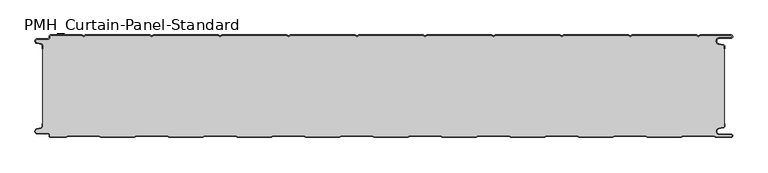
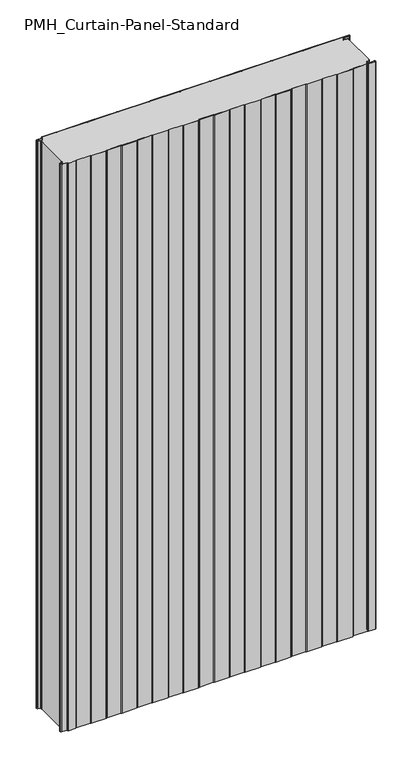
"""IFC4 building model written with IfcOpenShell, lengths in millimetres: plate geometry, PMH_Curtain-Panel-Standard : ACH_PMH_Acoustic-Sectioning-Panel_150M."""

from ifc_helpers import new_model, si_unit, point, frame_2d, origin, origin_with_axes, place, context, project, spatial, polyline, circle_curve, trimmed, segment, composite_curve, outline, extrude, source, transform, mapped, element, save


def pmh_curtain_panel_standard_5d81f6bc(model_context):
    return source(origin(), model_context, "Body", "SweptSolid", [
        extrude(outline(composite_curve([segment(trimmed(circle_curve(frame_2d((-502.0, -15.878557)), 2.0), [point((-500.0, -15.878557))], [point((-501.5500978, -13.9298169))], True, "CARTESIAN"), True, "CONTINUOUS"), segment(polyline([(-501.5500978, -13.9298169), (-507.7098239, -12.507732)]), True, "CONTINUOUS"), segment(trimmed(circle_curve(frame_2d((-506.9, -9.0)), 3.6), [point((-507.7098239, -12.507732))], [point((-506.9, -5.4))], False, "CARTESIAN"), True, "CONTINUOUS"), segment(polyline([(-506.9, -5.4), (-491.4, -5.4)]), True, "CONTINUOUS"), segment(trimmed(circle_curve(frame_2d((-491.4, -3.4)), 2.0), [point((-491.4, -5.4))], [point((-489.4, -3.4))], True, "CARTESIAN"), True, "CONTINUOUS"), segment(polyline([(-489.4, -3.4), (-489.4, -2.0)]), True, "CONTINUOUS"), segment(trimmed(circle_curve(frame_2d((-487.4, -2.0)), 2.0), [point((-489.4, -2.0))], [point((-487.4, 0.0))], False, "CARTESIAN"), True, "CONTINUOUS"), segment(polyline([(-487.4, 0.0), (-442.0999995, 0.0), (-439.4, -1.5588455), (-436.7000005, 0.0), (-342.0999995, 0.0), (-339.4, -1.5588455), (-336.7000005, 0.0), (-242.0999995, 0.0), (-239.4, -1.5588455), (-236.7000005, 0.0), (-142.0999995, 0.0), (-139.4, -1.5588455), (-136.7000005, 0.0), (-42.0999995, 0.0), (-39.4, -1.5588455), (-36.7000005, 0.0), (57.9000005, 0.0), (60.6, -1.5588455), (63.2999995, 0.0), (157.9000005, 0.0), (160.6, -1.5588455), (163.2999995, 0.0), (257.9000005, 0.0), (260.6, -1.5588455), (263.2999995, 0.0), (357.9000005, 0.0), (360.6, -1.5588455), (363.2999995, 0.0), (457.9000005, 0.0), (460.6, -1.5588455), (463.2999995, 0.0), (508.1, 0.0)]), True, "CONTINUOUS"), segment(trimmed(circle_curve(frame_2d((508.1, -2.5)), 2.5), [point((508.1, 0.0))], [point((508.1, -5.0))], False, "CARTESIAN"), True, "CONTINUOUS"), segment(polyline([(508.1, -5.0), (491.1, -5.0)]), True, "CONTINUOUS"), segment(trimmed(circle_curve(frame_2d((491.1, -9.0)), 4.0), [point((491.1, -5.0))], [point((490.405407, -12.939231))], True, "CARTESIAN"), True, "CONTINUOUS"), segment(polyline([(490.405407, -12.939231), (496.8514855, -14.0758491)]), True, "CONTINUOUS"), segment(trimmed(circle_curve(frame_2d((496.4, -16.6363492)), 2.6), [point((496.8514855, -14.0758491))], [point((499.0, -16.6363492))], False, "CARTESIAN"), True, "CONTINUOUS"), segment(polyline([(499.0, -16.6363492), (499.0, -20.0), (498.2, -20.0), (498.2, -16.6363492)]), True, "CONTINUOUS"), segment(trimmed(circle_curve(frame_2d((496.4, -16.6363492)), 1.8), [point((498.2, -16.6363492))], [point((496.7125669, -14.8636953))], True, "CARTESIAN"), True, "CONTINUOUS"), segment(polyline([(496.7125669, -14.8636953), (490.2664884, -13.7270772)]), True, "CONTINUOUS"), segment(trimmed(circle_curve(frame_2d((491.1, -9.0)), 4.8), [point((490.2664884, -13.7270772))], [point((491.1, -4.2))], False, "CARTESIAN"), True, "CONTINUOUS"), segment(polyline([(491.1, -4.2), (508.1, -4.2)]), True, "CONTINUOUS"), segment(trimmed(circle_curve(frame_2d((508.1, -2.5)), 1.7), [point((508.1, -4.2))], [point((508.1, -0.8))], True, "CARTESIAN"), True, "CONTINUOUS"), segment(polyline([(508.1, -0.8), (463.5143588, -0.8), (460.6, -2.482606), (457.6856412, -0.8), (363.5143588, -0.8), (360.6, -2.482606), (357.6856412, -0.8), (263.5143588, -0.8), (260.6, -2.482606), (257.6856412, -0.8), (163.5143588, -0.8), (160.6, -2.482606), (157.6856412, -0.8), (63.5143588, -0.8), (60.6, -2.482606), (57.6856412, -0.8), (-36.4856412, -0.8), (-39.4, -2.482606), (-42.3143588, -0.8), (-136.4856412, -0.8), (-139.4, -2.482606), (-142.3143588, -0.8), (-236.4856412, -0.8), (-239.4, -2.482606), (-242.3143588, -0.8), (-336.4856412, -0.8), (-339.4, -2.482606), (-342.3143588, -0.8), (-436.4856412, -0.8), (-439.4, -2.482606), (-442.3143588, -0.8), (-487.4, -0.8)]), True, "CONTINUOUS"), segment(trimmed(circle_curve(frame_2d((-487.4, -2.0)), 1.2), [point((-487.4, -0.8))], [point((-488.6, -2.0))], True, "CARTESIAN"), True, "CONTINUOUS"), segment(polyline([(-488.6, -2.0), (-488.6, -3.4)]), True, "CONTINUOUS"), segment(trimmed(circle_curve(frame_2d((-491.4, -3.4)), 2.8), [point((-488.6, -3.4))], [point((-491.4, -6.2))], False, "CARTESIAN"), True, "CONTINUOUS"), segment(polyline([(-491.4, -6.2), (-506.9, -6.2)]), True, "CONTINUOUS"), segment(trimmed(circle_curve(frame_2d((-506.9, -9.0)), 2.8), [point((-506.9, -6.2))], [point((-507.529863, -11.7282362))], True, "CARTESIAN"), True, "CONTINUOUS"), segment(polyline([(-507.529863, -11.7282362), (-501.370137, -13.150321)]), True, "CONTINUOUS"), segment(trimmed(circle_curve(frame_2d((-502.0, -15.878557)), 2.8), [point((-501.370137, -13.150321))], [point((-499.2, -15.878557))], False, "CARTESIAN"), True, "CONTINUOUS"), segment(polyline([(-499.2, -15.878557), (-499.2, -20.0), (-500.0, -20.0), (-500.0, -15.878557)]), True, "CONTINUOUS")], self_intersect=False)), origin_with_axes(), (0.0, 0.0, 1.0), 1945.7507136),
        extrude(outline(composite_curve([segment(polyline([(-499.2, -134.121443), (-499.2, -15.8785573)]), True, "CONTINUOUS"), segment(trimmed(circle_curve(frame_2d((-502.0, -15.8785573)), 2.8), [point((-499.2, -15.8785573))], [point((-501.370137, -13.1503212))], True, "CARTESIAN"), True, "CONTINUOUS"), segment(polyline([(-501.370137, -13.1503212), (-507.5298631, -11.7282362)]), True, "CONTINUOUS"), segment(trimmed(circle_curve(frame_2d((-506.9, -9.0)), 2.8), [point((-507.5298631, -11.7282362))], [point((-506.9, -6.2))], False, "CARTESIAN"), True, "CONTINUOUS"), segment(polyline([(-506.9, -6.2), (-491.4000001, -6.2)]), True, "CONTINUOUS"), segment(trimmed(circle_curve(frame_2d((-491.4000001, -3.4)), 2.8), [point((-491.4000001, -6.2))], [point((-488.6000001, -3.4))], True, "CARTESIAN"), True, "CONTINUOUS"), segment(polyline([(-488.6000001, -3.4), (-488.6000001, -2.0)]), True, "CONTINUOUS"), segment(trimmed(circle_curve(frame_2d((-487.4000001, -2.0)), 1.2), [point((-488.6000001, -2.0))], [point((-487.4000001, -0.8))], False, "CARTESIAN"), True, "CONTINUOUS"), segment(polyline([(-487.4000001, -0.8), (-442.3143589, -0.8), (-439.4000001, -2.482606), (-436.4856412, -0.8), (-342.3143589, -0.8), (-339.4000001, -2.482606), (-336.4856412, -0.8), (-242.3143589, -0.8), (-239.4000001, -2.482606), (-236.4856412, -0.8), (-142.3143589, -0.8), (-139.4000001, -2.482606), (-136.4856412, -0.8), (-42.3143589, -0.8), (-39.4000001, -2.482606), (-36.4856412, -0.8), (57.6856411, -0.8), (60.5999999, -2.482606), (63.5143588, -0.8), (157.6856411, -0.8), (160.5999999, -2.482606), (163.5143588, -0.8), (257.6856411, -0.8), (260.5999999, -2.482606), (263.5143588, -0.8), (357.6856411, -0.8), (360.5999999, -2.482606), (363.5143588, -0.8), (457.6856411, -0.8), (460.5999999, -2.482606), (463.5143587, -0.8), (508.1, -0.8)]), True, "CONTINUOUS"), segment(trimmed(circle_curve(frame_2d((508.1, -2.5)), 1.7), [point((508.1, -0.8))], [point((508.1, -4.2))], False, "CARTESIAN"), True, "CONTINUOUS"), segment(polyline([(508.1, -4.2), (491.1, -4.2)]), True, "CONTINUOUS"), segment(trimmed(circle_curve(frame_2d((491.1, -9.0)), 4.8), [point((491.1, -4.2))], [point((490.2664883, -13.7270771))], True, "CARTESIAN"), True, "CONTINUOUS"), segment(polyline([(490.2664883, -13.7270771), (496.7125668, -14.8636953)]), True, "CONTINUOUS"), segment(trimmed(circle_curve(frame_2d((496.4, -16.6363492)), 1.8), [point((496.7125668, -14.8636953))], [point((498.2, -16.6363492))], False, "CARTESIAN"), True, "CONTINUOUS"), segment(polyline([(498.2, -16.6363492), (498.2, -133.363652)]), True, "CONTINUOUS"), segment(trimmed(circle_curve(frame_2d((496.4, -133.363652)), 1.8), [point((498.2, -133.363652))], [point((496.7125666, -135.1363059))], False, "CARTESIAN"), True, "CONTINUOUS"), segment(polyline([(496.7125666, -135.1363059), (490.266489, -136.272923)]), True, "CONTINUOUS"), segment(trimmed(circle_curve(frame_2d((491.1, -141.0000002)), 4.7999999), [point((490.266489, -136.272923))], [point((491.1, -145.8000001))], True, "CARTESIAN"), True, "CONTINUOUS"), segment(polyline([(491.1, -145.8000001), (508.1, -145.8000001)]), True, "CONTINUOUS"), segment(trimmed(circle_curve(frame_2d((508.1, -147.5)), 1.7), [point((508.1, -145.8000001))], [point((508.1, -149.2))], False, "CARTESIAN"), True, "CONTINUOUS"), segment(polyline([(508.1, -149.2), (485.8105122, -149.2), (483.2124346, -147.7), (437.9837184, -147.7), (435.3856408, -149.2), (385.8105122, -149.2), (383.2124346, -147.7), (337.9837184, -147.7), (335.3856408, -149.2), (285.8105122, -149.2), (283.2124346, -147.7), (237.9837184, -147.7), (235.3856408, -149.2), (185.8105122, -149.2), (183.2124346, -147.7), (137.9837184, -147.7), (135.3856408, -149.2), (85.8105122, -149.2), (83.2124346, -147.7), (37.9837184, -147.7), (35.3856408, -149.2), (-14.1894878, -149.2), (-16.7875654, -147.7), (-62.0162816, -147.7), (-64.6143592, -149.2), (-114.1894878, -149.2), (-116.7875654, -147.7), (-162.0162816, -147.7), (-164.6143592, -149.2), (-214.1894878, -149.2), (-216.7875654, -147.7), (-262.0162816, -147.7), (-264.6143592, -149.2), (-314.1894878, -149.2), (-316.7875654, -147.7), (-362.0162816, -147.7), (-364.6143592, -149.2), (-414.1894878, -149.2), (-416.7875654, -147.7), (-462.0162816, -147.7), (-464.6143592, -149.2), (-487.4, -149.2)]), True, "CONTINUOUS"), segment(trimmed(circle_curve(frame_2d((-487.4, -148.0)), 1.2), [point((-487.4, -149.2))], [point((-488.6, -148.0))], False, "CARTESIAN"), True, "CONTINUOUS"), segment(polyline([(-488.6, -148.0), (-488.6, -146.5999998)]), True, "CONTINUOUS"), segment(trimmed(circle_curve(frame_2d((-491.4, -146.5999998)), 2.8), [point((-488.6, -146.5999998))], [point((-491.4, -143.7999998))], True, "CARTESIAN"), True, "CONTINUOUS"), segment(polyline([(-491.4, -143.7999998), (-506.9, -143.7999998)]), True, "CONTINUOUS"), segment(trimmed(circle_curve(frame_2d((-506.9, -141.0)), 2.7999998), [point((-506.9, -143.7999998))], [point((-507.529863, -138.271764))], False, "CARTESIAN"), True, "CONTINUOUS"), segment(polyline([(-507.529863, -138.271764), (-501.370137, -136.8496792)]), True, "CONTINUOUS"), segment(trimmed(circle_curve(frame_2d((-502.0, -134.121443)), 2.8), [point((-501.370137, -136.8496792))], [point((-499.2, -134.121443))], True, "CARTESIAN"), True, "CONTINUOUS")], self_intersect=False)), origin_with_axes(), (0.0, 0.0, 1.0), 1945.7507136),
        extrude(outline(composite_curve([segment(trimmed(circle_curve(frame_2d((-487.4, -148.0)), 2.0), [point((-487.4, -150.0))], [point((-489.4, -148.0))], False, "CARTESIAN"), True, "CONTINUOUS"), segment(polyline([(-489.4, -148.0), (-489.4, -146.6)]), True, "CONTINUOUS"), segment(trimmed(circle_curve(frame_2d((-491.4, -146.6)), 2.0), [point((-489.4, -146.6))], [point((-491.4, -144.6))], True, "CARTESIAN"), True, "CONTINUOUS"), segment(polyline([(-491.4, -144.6), (-506.9, -144.6)]), True, "CONTINUOUS"), segment(trimmed(circle_curve(frame_2d((-506.9, -141.0)), 3.6), [point((-506.9, -144.6))], [point((-507.7098239, -137.4922678))], False, "CARTESIAN"), True, "CONTINUOUS"), segment(polyline([(-507.7098239, -137.4922678), (-501.5500979, -136.070183)]), True, "CONTINUOUS"), segment(trimmed(circle_curve(frame_2d((-502.0, -134.121443)), 2.0), [point((-501.5500979, -136.070183))], [point((-500.0, -134.121443))], True, "CARTESIAN"), True, "CONTINUOUS"), segment(polyline([(-500.0, -134.121443), (-500.0, -130.0), (-499.2, -130.0), (-499.2, -134.121443)]), True, "CONTINUOUS"), segment(trimmed(circle_curve(frame_2d((-502.0, -134.121443)), 2.8), [point((-499.2, -134.121443))], [point((-501.370137, -136.8496792))], False, "CARTESIAN"), True, "CONTINUOUS"), segment(polyline([(-501.370137, -136.8496792), (-507.529863, -138.271764)]), True, "CONTINUOUS"), segment(trimmed(circle_curve(frame_2d((-506.9, -141.0)), 2.8), [point((-507.529863, -138.271764))], [point((-506.9, -143.8))], True, "CARTESIAN"), True, "CONTINUOUS"), segment(polyline([(-506.9, -143.8), (-491.4, -143.8)]), True, "CONTINUOUS"), segment(trimmed(circle_curve(frame_2d((-491.4, -146.6)), 2.8), [point((-491.4, -143.8))], [point((-488.6, -146.6))], False, "CARTESIAN"), True, "CONTINUOUS"), segment(polyline([(-488.6, -146.6), (-488.6, -148.0)]), True, "CONTINUOUS"), segment(trimmed(circle_curve(frame_2d((-487.4, -148.0)), 1.2), [point((-488.6, -148.0))], [point((-487.4, -149.2))], True, "CARTESIAN"), True, "CONTINUOUS"), segment(polyline([(-487.4, -149.2), (-464.6143592, -149.2), (-462.0162816, -147.7), (-416.7875654, -147.7), (-414.1894878, -149.2), (-364.6143592, -149.2), (-362.0162816, -147.7), (-316.7875654, -147.7), (-314.1894878, -149.2), (-264.6143592, -149.2), (-262.0162816, -147.7), (-216.7875654, -147.7), (-214.1894878, -149.2), (-164.6143592, -149.2), (-162.0162816, -147.7), (-116.7875654, -147.7), (-114.1894878, -149.2), (-64.6143592, -149.2), (-62.0162816, -147.7), (-16.7875654, -147.7), (-14.1894878, -149.2), (35.3856408, -149.2), (37.9837184, -147.7), (83.2124346, -147.7), (85.8105122, -149.2), (135.3856408, -149.2), (137.9837184, -147.7), (183.2124346, -147.7), (185.8105122, -149.2), (235.3856408, -149.2), (237.9837184, -147.7), (283.2124346, -147.7), (285.8105122, -149.2), (335.3856408, -149.2), (337.9837184, -147.7), (383.2124346, -147.7), (385.8105122, -149.2), (435.3856408, -149.2), (437.9837184, -147.7), (483.2124346, -147.7), (485.8105122, -149.2), (508.1, -149.2)]), True, "CONTINUOUS"), segment(trimmed(circle_curve(frame_2d((508.1, -147.5)), 1.7), [point((508.1, -149.2))], [point((508.1, -145.8))], True, "CARTESIAN"), True, "CONTINUOUS"), segment(polyline([(508.1, -145.8), (491.1, -145.8)]), True, "CONTINUOUS"), segment(trimmed(circle_curve(frame_2d((491.1, -141.0)), 4.8), [point((491.1, -145.8))], [point((490.266489, -136.2729227))], False, "CARTESIAN"), True, "CONTINUOUS"), segment(polyline([(490.266489, -136.2729227), (496.7125666, -135.1363058)]), True, "CONTINUOUS"), segment(trimmed(circle_curve(frame_2d((496.4, -133.363652)), 1.8), [point((496.7125666, -135.1363058))], [point((498.2, -133.363652))], True, "CARTESIAN"), True, "CONTINUOUS"), segment(polyline([(498.2, -133.363652), (498.2, -130.0), (499.0, -130.0), (499.0, -133.363652)]), True, "CONTINUOUS"), segment(trimmed(circle_curve(frame_2d((496.4, -133.363652)), 2.6), [point((499.0, -133.363652))], [point((496.8514851, -135.9241522))], False, "CARTESIAN"), True, "CONTINUOUS"), segment(polyline([(496.8514851, -135.9241522), (490.4054075, -137.0607691)]), True, "CONTINUOUS"), segment(trimmed(circle_curve(frame_2d((491.1, -141.0)), 4.0), [point((490.4054075, -137.0607691))], [point((491.1, -145.0))], True, "CARTESIAN"), True, "CONTINUOUS"), segment(polyline([(491.1, -145.0), (508.1, -145.0)]), True, "CONTINUOUS"), segment(trimmed(circle_curve(frame_2d((508.1, -147.5)), 2.5), [point((508.1, -145.0))], [point((508.1, -150.0))], False, "CARTESIAN"), True, "CONTINUOUS"), segment(polyline([(508.1, -150.0), (485.5961529, -150.0), (482.9980753, -148.5), (438.1980777, -148.5), (435.6000001, -150.0), (385.5961529, -150.0), (382.9980753, -148.5), (338.1980777, -148.5), (335.6000001, -150.0), (285.5961529, -150.0), (282.9980753, -148.5), (238.1980777, -148.5), (235.6000001, -150.0), (185.5961529, -150.0), (182.9980753, -148.5), (138.1980777, -148.5), (135.6000001, -150.0), (85.5961529, -150.0), (82.9980753, -148.5), (38.1980777, -148.5), (35.6000001, -150.0), (-14.4038471, -150.0), (-17.0019247, -148.5), (-61.8019223, -148.5), (-64.3999999, -150.0), (-114.4038471, -150.0), (-117.0019247, -148.5), (-161.8019223, -148.5), (-164.3999999, -150.0), (-214.4038471, -150.0), (-217.0019247, -148.5), (-261.8019223, -148.5), (-264.3999999, -150.0), (-314.4038471, -150.0), (-317.0019247, -148.5), (-361.8019223, -148.5), (-364.3999999, -150.0), (-414.4038471, -150.0), (-417.0019247, -148.5), (-461.8019223, -148.5), (-464.3999999, -150.0), (-487.4, -150.0)]), True, "CONTINUOUS")], self_intersect=False)), origin_with_axes(), (0.0, 0.0, 1.0), 1945.7507136),
    ])


if __name__ == "__main__":
    model = new_model("IFC4")
    model_context = context("Model", 3, world=origin())
    ifc_project = project(units=[si_unit("LENGTHUNIT", "METRE", prefix="MILLI")], contexts=[model_context])
    site = spatial("IfcSite", under=ifc_project)
    building = spatial("IfcBuilding", under=site)
    placement = place(None, origin())
    pmh_curtain_panel_standard_shape = pmh_curtain_panel_standard_5d81f6bc(model_context)
    element("IfcPlate", 1, ObjectType="PMH_Curtain-Panel-Standard : ACH_PMH_Acoustic-Sectioning-Panel_150M", at=placement, inside=building, context=model_context, shape_type="MappedRepresentation", body=[
        mapped(pmh_curtain_panel_standard_shape, transform((0.0, 0.0, 0.0), x_axis=(1.0, 0.0, 0.0), y_axis=(0.0, 1.0, 0.0), z_axis=(0.0, 0.0, 1.0))),
    ])
    save(model, "model.ifc")
